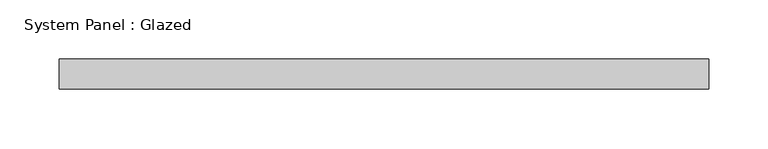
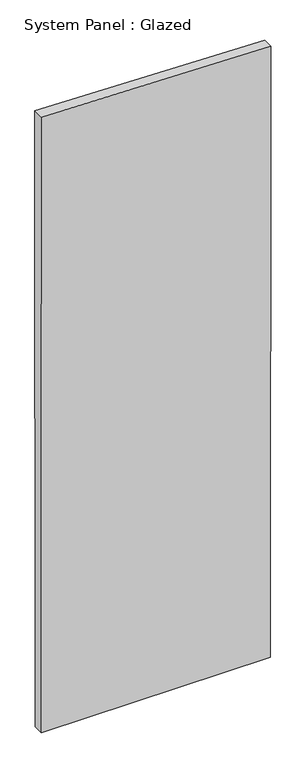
"""IFC4 building model written with IfcOpenShell, lengths in millimetres: plate geometry, System Panel : Glazed."""

from ifc_helpers import new_model, si_unit, frame, origin, place, context, project, spatial, polyline, outline, extrude, source, transform, mapped, element, save


def system_panel_glazed_0ddebd79(model_context):
    return source(origin(), model_context, "Body", "SweptSolid", [
        extrude(outline(polyline([(0.0, -272.8625971), (0.0, 272.8621052), (1538.0660091, 273.6453876), (1551.5412121, -273.6453876), (0.0, -272.8625971)])), frame((0.0, -44.45, 0.0), z_axis=(0.0, 1.0, 0.0), x_axis=(0.0, 0.0, 1.0)), (0.0, 0.0, 1.0), 25.4),
    ])


if __name__ == "__main__":
    model = new_model("IFC4")
    model_context = context("Model", 3, world=origin())
    ifc_project = project(units=[si_unit("LENGTHUNIT", "METRE", prefix="MILLI")], contexts=[model_context])
    site = spatial("IfcSite", under=ifc_project)
    building = spatial("IfcBuilding", under=site)
    placement = place(None, origin())
    system_panel_glazed_shape = system_panel_glazed_0ddebd79(model_context)
    element("IfcPlate", 1, ObjectType="System Panel : Glazed", at=placement, inside=building, context=model_context, shape_type="MappedRepresentation", body=[
        mapped(system_panel_glazed_shape, transform((0.0, 0.0, 0.0), x_axis=(1.0, 0.0, 0.0), y_axis=(0.0, 1.0, 0.0), z_axis=(0.0, 0.0, 1.0))),
    ])
    save(model, "model.ifc")
